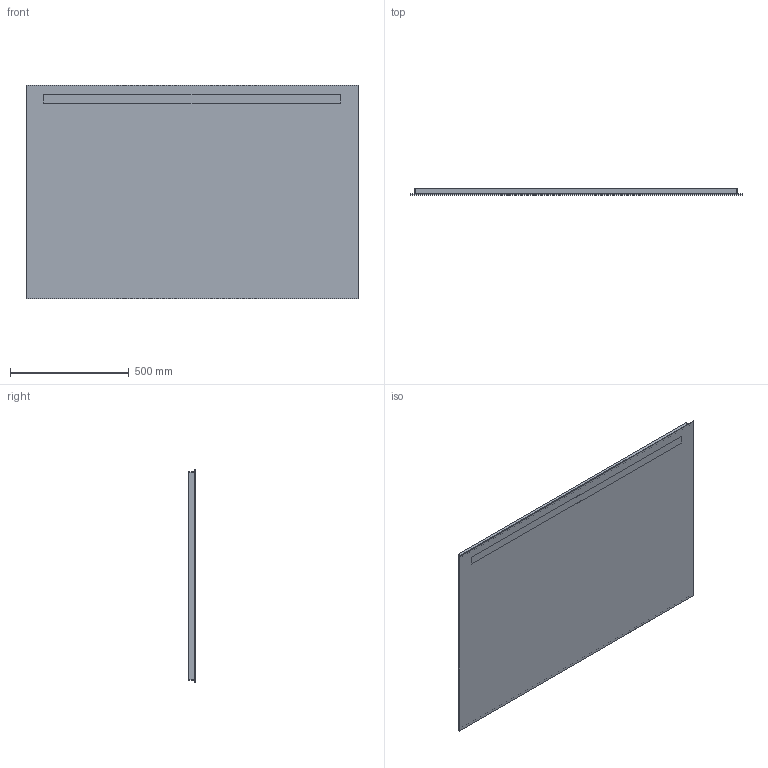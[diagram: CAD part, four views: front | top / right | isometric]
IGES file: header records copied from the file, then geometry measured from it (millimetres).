
Global section: file name: 502816; native system: Autodesk Inventor 2021; preprocessor: unknown; author: JANAN; date: 20221202.151758; units: millimetre
Bounding box: 1400 x 26 x 900 mm (x, y, z)
Volume: 31363043.9 mm3; surface area: 5031693.9 mm2
Topology: 2 solids, 2 shells, 29 faces, 68 edges, 48 vertices
Faces by surface type: bspline 29
